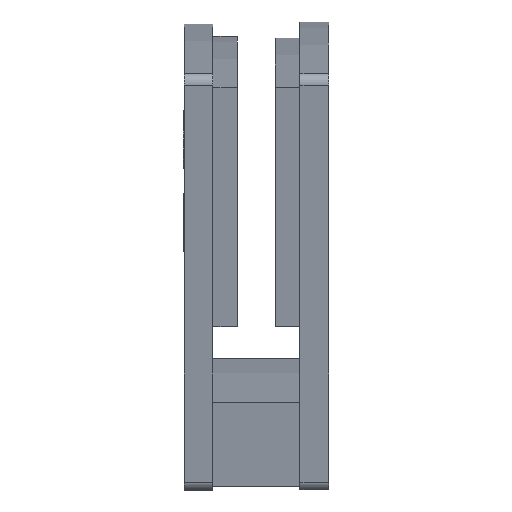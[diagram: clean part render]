
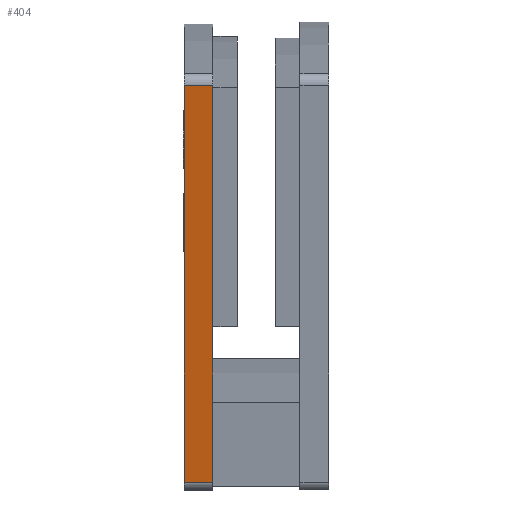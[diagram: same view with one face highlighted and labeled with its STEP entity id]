
A CAD part, left-side view. The second image highlights one B-rep face of the part: STEP entity #404.
In plain terms, the highlighted planar face has unit normal (-0.978, 0, -0.208).
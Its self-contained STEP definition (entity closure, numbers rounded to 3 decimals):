
#4 = PLANE ( 'NONE',  #1210 ) ;
#404 = ADVANCED_FACE ( 'NONE', ( #3045 ), #4, .F. ) ;
#407 = LINE ( 'NONE', #2767, #2509 ) ;
#419 = ORIENTED_EDGE ( 'NONE', *, *, #2010, .T. ) ;
#464 = DIRECTION ( 'NONE',  ( 0.978, 0., 0.208 ) ) ;
#546 = CARTESIAN_POINT ( 'NONE',  ( -104.163, 8.9, 490.048 ) ) ;
#576 = LINE ( 'NONE', #1439, #909 ) ;
#663 = EDGE_LOOP ( 'NONE', ( #2689, #2262, #1374, #419 ) ) ;
#830 = DIRECTION ( 'NONE',  ( 0., 1., 0. ) ) ;
#840 = EDGE_CURVE ( 'NONE', #2748, #1716, #1111, .T. ) ;
#909 = VECTOR ( 'NONE', #2932, 1000. ) ;
#1111 = LINE ( 'NONE', #1151, #2890 ) ;
#1144 = VERTEX_POINT ( 'NONE', #1464 ) ;
#1151 = CARTESIAN_POINT ( 'NONE',  ( -104.58, 14.8, 492.008 ) ) ;
#1210 = AXIS2_PLACEMENT_3D ( 'NONE', #1714, #464, #2156 ) ;
#1284 = VERTEX_POINT ( 'NONE', #546 ) ;
#1322 = LINE ( 'NONE', #3092, #2517 ) ;
#1374 = ORIENTED_EDGE ( 'NONE', *, *, #840, .F. ) ;
#1425 = DIRECTION ( 'NONE',  ( -0.208, 0., 0.978 ) ) ;
#1439 = CARTESIAN_POINT ( 'NONE',  ( -104.58, 8.9, 492.008 ) ) ;
#1464 = CARTESIAN_POINT ( 'NONE',  ( -86.906, 8.9, 408.861 ) ) ;
#1714 = CARTESIAN_POINT ( 'NONE',  ( -104.58, 14.8, 492.008 ) ) ;
#1716 = VERTEX_POINT ( 'NONE', #1732 ) ;
#1732 = CARTESIAN_POINT ( 'NONE',  ( -104.163, 14.8, 490.048 ) ) ;
#1782 = CARTESIAN_POINT ( 'NONE',  ( -86.906, 14.8, 408.861 ) ) ;
#2010 = EDGE_CURVE ( 'NONE', #2748, #1144, #1322, .T. ) ;
#2156 = DIRECTION ( 'NONE',  ( 0.208, 0., -0.978 ) ) ;
#2262 = ORIENTED_EDGE ( 'NONE', *, *, #3085, .T. ) ;
#2320 = EDGE_CURVE ( 'NONE', #1144, #1284, #576, .T. ) ;
#2509 = VECTOR ( 'NONE', #830, 1000. ) ;
#2517 = VECTOR ( 'NONE', #2615, 1000. ) ;
#2615 = DIRECTION ( 'NONE',  ( 0., -1., 0. ) ) ;
#2689 = ORIENTED_EDGE ( 'NONE', *, *, #2320, .T. ) ;
#2748 = VERTEX_POINT ( 'NONE', #1782 ) ;
#2767 = CARTESIAN_POINT ( 'NONE',  ( -104.163, 14.8, 490.048 ) ) ;
#2890 = VECTOR ( 'NONE', #1425, 1000. ) ;
#2932 = DIRECTION ( 'NONE',  ( -0.208, 0., 0.978 ) ) ;
#3045 = FACE_OUTER_BOUND ( 'NONE', #663, .T. ) ;
#3085 = EDGE_CURVE ( 'NONE', #1284, #1716, #407, .T. ) ;
#3092 = CARTESIAN_POINT ( 'NONE',  ( -86.906, 14.8, 408.861 ) ) ;
